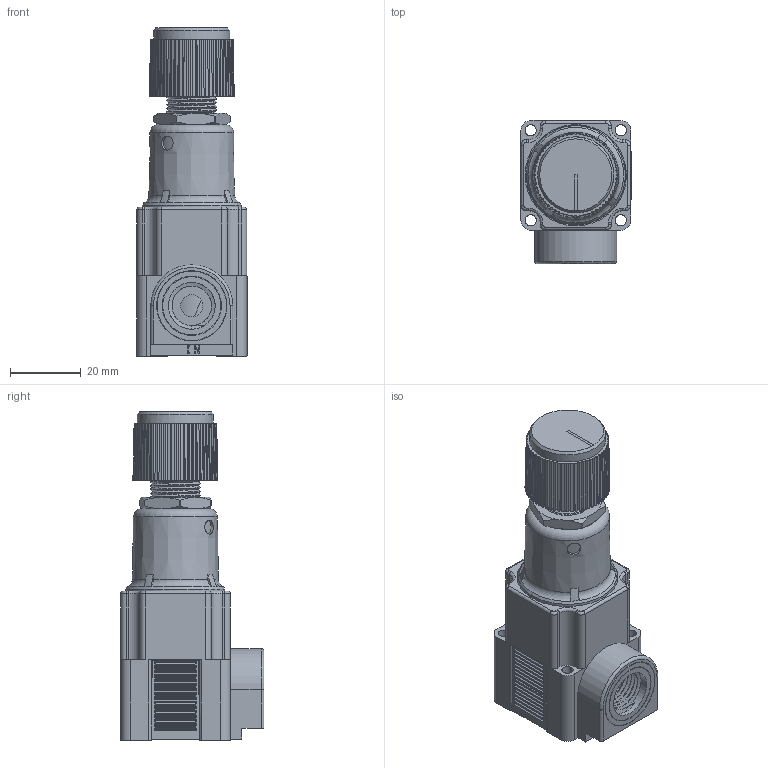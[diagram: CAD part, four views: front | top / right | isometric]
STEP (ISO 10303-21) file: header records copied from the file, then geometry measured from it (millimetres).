
FILE_DESCRIPTION(/* description */ (''),/* implementation_level */ '2;1');
FILE_NAME(/* name */ 'K:\Normteile INVENTOR\Air-Logic\Regulators\NR4000\NR 4___ 2 1''4-18 NPT Threads In.igs.ipt.stp',/* time_stamp */ '2020-05-27T10:50:38+02:00',/* author */ ('Paul'),/* organization */ (''),/* preprocessor_version */ 'ST-DEVELOPER v18',/* originating_system */ 'Autodesk Inventor 2020',/* authorisation */ '');
FILE_SCHEMA (('AUTOMOTIVE_DESIGN { 1 0 10303 214 3 1 1 }'));
Length unit declared in the file: inch
Products named in the file (1): NR 4___ 2 1'4-18 NPT Threads In.igs
Bounding box: 31.06 x 40.56 x 92.65 mm (x, y, z)
Volume: 58136.8 mm3; surface area: 19920.1 mm2
Topology: 1 solids, 1 shells, 943 faces, 2431 edges, 1551 vertices
Faces by surface type: plane 468, cylinder 348, cone 82, bspline 25, torus 20
Full cylindrical faces by diameter (mm): 3.175 x4, 3.988 x1, 4.039 x1, 4.064 x1, 6.223 x1, 6.248 x1, 11.163 x5, 13.208 x2, 14.288 x2, 16.408 x1, 16.717 x1, 19.406 x1, 19.612 x1, 19.825 x1, 21.476 x1, 26.264 x1, 27.94 x1, 27.991 x1, 28.575 x1
Entity records: 39411 total; most frequent: CARTESIAN_POINT 14967, DIRECTION 5078, ORIENTED_EDGE 4862, EDGE_CURVE 2431, AXIS2_PLACEMENT_3D 1933, VERTEX_POINT 1551, LINE 1212, VECTOR 1212
